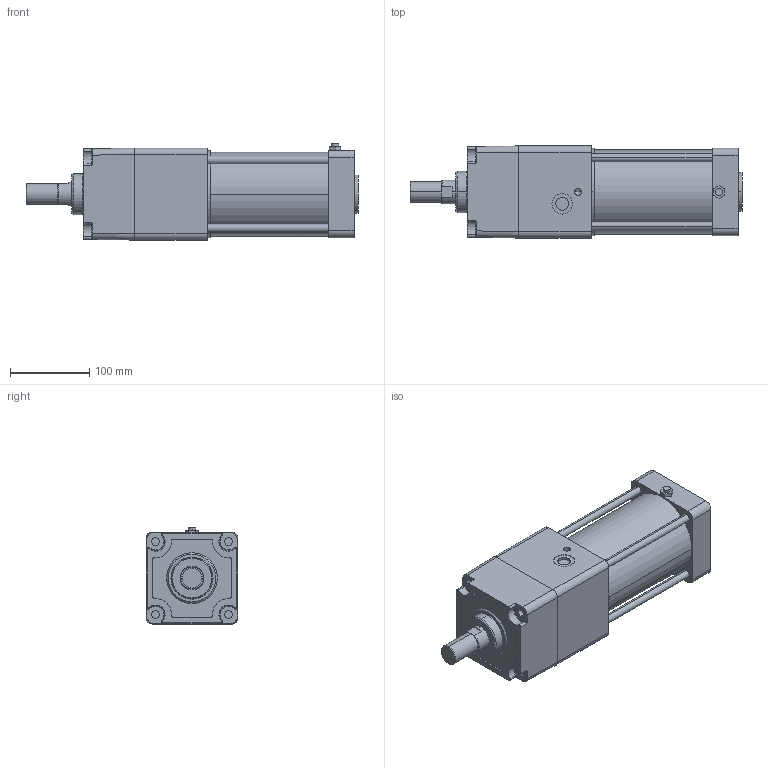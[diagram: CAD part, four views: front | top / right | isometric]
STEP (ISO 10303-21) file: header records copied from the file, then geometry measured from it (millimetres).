
FILE_DESCRIPTION (( 'STEP AP203' ), '1' );
FILE_NAME ('KGSP2-100-100-N.STEP', '2016-04-20T08:01:17', ( '' ), ( '' ), 'SwSTEP 2.0', 'SolidWorks 2014', '' );
FILE_SCHEMA (( 'CONFIG_CONTROL_DESIGN' ));
Length unit declared in the file: millimetre
Products named in the file (7): KGSP2-100-100-N; KGSP2-100-100; KGSP2-100-Mi; KGSP2-100-Before; KG2-100-After
Assembly tree (12 placements, depth 2):
  KGSP2-100-100-N
    KGSP2-100-Before
    KGSP2-100-Mi
    KGSP2-100-100
    KG2-100-After
    (unnamed)  x4
    (unnamed)  x4
Bounding box: 418.8 x 116 x 121.3 mm (x, y, z)
Volume: 3772065.9 mm3; surface area: 307728.4 mm2
Topology: 12 solids, 12 shells, 331 faces, 791 edges, 494 vertices
Faces by surface type: cylinder 132, plane 103, cone 42, torus 30, bspline 24
Entity records: 10792 total; most frequent: CARTESIAN_POINT 3221, DIRECTION 1454, ORIENTED_EDGE 1366, EDGE_CURVE 683, AXIS2_PLACEMENT_3D 578, VERTEX_POINT 440, EDGE_LOOP 329, CIRCLE 304
